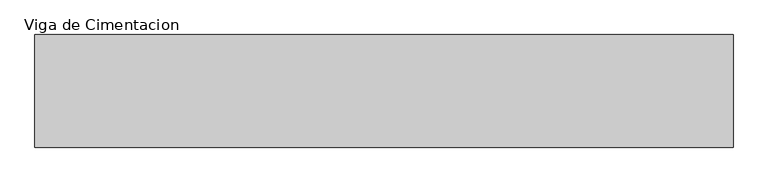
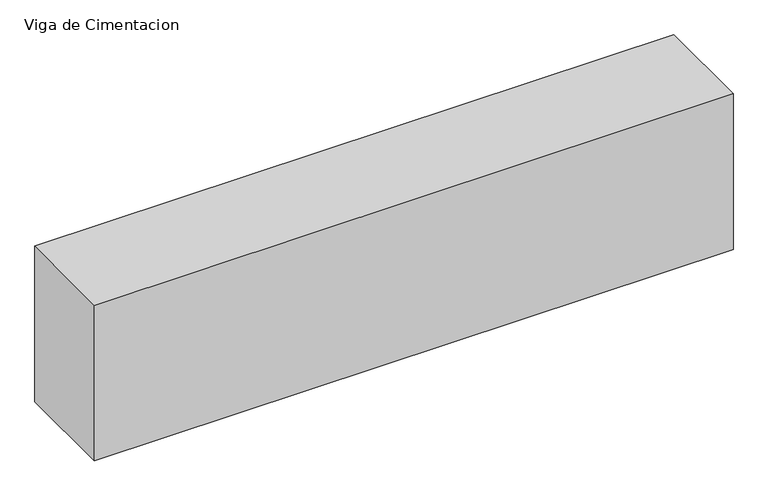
"""IFC4 building model written with IfcOpenShell, lengths in millimetres: beam geometry, Viga de Cimentacion : EVC_Viga de Cimentacion 25x50 cm."""

from ifc_helpers import new_model, si_unit, frame, origin, place, context, project, spatial, polyline, outline, extrude, source, transform, mapped, element, save


def viga_de_cimentacion_b29c8cc3(model_context):
    return source(origin(), model_context, "Body", "SweptSolid", [
        extrude(outline(polyline([(775.0, 125.0), (775.0, -125.0), (-775.0, -125.0), (-775.0, 125.0), (775.0, 125.0)])), frame((0.0, 0.0, -400.0), z_axis=(0.0, 0.0, 1.0), x_axis=(1.0, 0.0, 0.0)), (0.0, 0.0, 1.0), 400.0),
    ])


if __name__ == "__main__":
    model = new_model("IFC4")
    model_context = context("Model", 3, world=origin())
    ifc_project = project(units=[si_unit("LENGTHUNIT", "METRE", prefix="MILLI")], contexts=[model_context])
    site = spatial("IfcSite", under=ifc_project)
    building = spatial("IfcBuilding", under=site)
    placement = place(None, origin())
    viga_de_cimentacion_shape = viga_de_cimentacion_b29c8cc3(model_context)
    element("IfcBeam", 1, ObjectType="Viga de Cimentacion : EVC_Viga de Cimentacion 25x50 cm", at=placement, inside=building, context=model_context, shape_type="MappedRepresentation", body=[
        mapped(viga_de_cimentacion_shape, transform((0.0, 0.0, 0.0), x_axis=(1.0, 0.0, 0.0), y_axis=(0.0, 1.0, 0.0), z_axis=(0.0, 0.0, 1.0))),
    ])
    save(model, "model.ifc")
